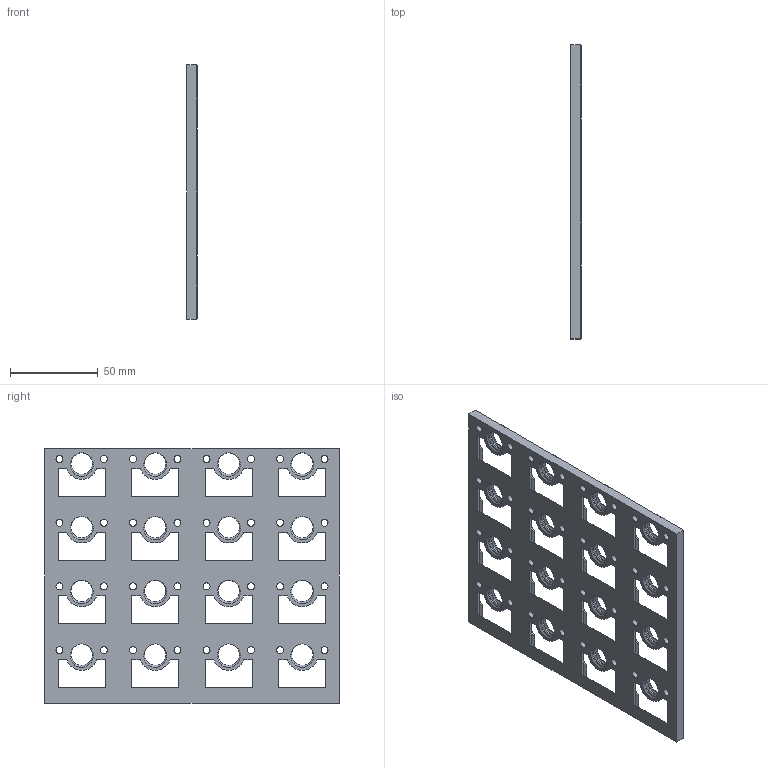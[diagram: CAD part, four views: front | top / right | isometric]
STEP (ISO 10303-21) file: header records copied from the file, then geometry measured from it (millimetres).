
FILE_DESCRIPTION(/* description */ ('','CAx-IF Rec.Pracs.---Representation and Presentation of Product Manufacturing Information (PMI)---4.0---2014-10-13'),/* implementation_level */ '2;1');
FILE_NAME(/* name */ 'Goews Grid 36H 4x4.step',/* time_stamp */ '2025-01-03T09:32:21-05:00',/* author */ (''),/* organization */ (''),/* preprocessor_version */ 'ST-DEVELOPER v20',/* originating_system */ 'Autodesk Translation Framework v13.20.0.188',/* authorisation */ '');
FILE_SCHEMA (('AP242_MANAGED_MODEL_BASED_3D_ENGINEERING_MIM_LF { 1 0 10303 442 1 1 4 }'));
Products named in the file (1): Goews Grid 36H TileMaker
Bounding box: 6 x 168 x 145.49 mm (x, y, z)
Volume: 75056.6 mm3; surface area: 53794.4 mm2
Topology: 1 solids, 1 shells, 693 faces, 1872 edges, 1181 vertices
Faces by surface type: plane 405, cylinder 208, cone 48, bspline 32
Full cylindrical faces by diameter (mm): 4 x32, 8 x32, 12.322 x32, 14.55 x32
Entity records: 40315 total; most frequent: CARTESIAN_POINT 23331, ORIENTED_EDGE 3744, DIRECTION 3084, EDGE_CURVE 1872, LINE 1248, VECTOR 1248, VERTEX_POINT 1181, AXIS2_PLACEMENT_3D 918
